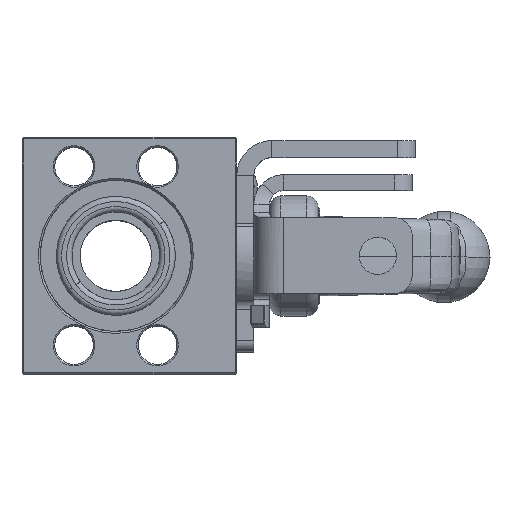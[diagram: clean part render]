
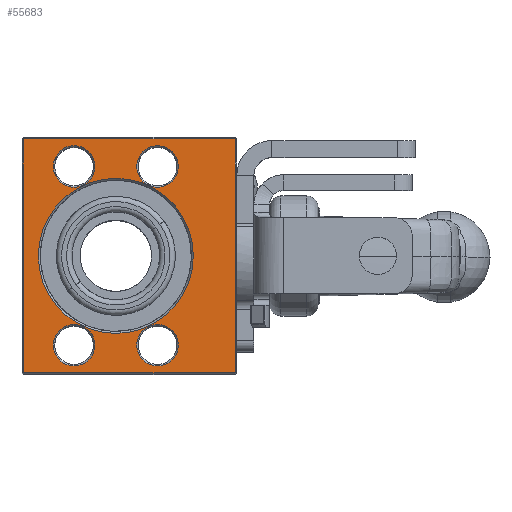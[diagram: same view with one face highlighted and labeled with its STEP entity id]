
A CAD part, top view. The second image highlights one B-rep face of the part: STEP entity #55683.
In plain terms, the highlighted planar face has unit normal (0, 0, 1).
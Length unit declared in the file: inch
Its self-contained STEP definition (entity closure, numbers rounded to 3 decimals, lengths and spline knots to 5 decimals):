
#310 = CARTESIAN_POINT ( 'NONE',  ( -1.1103, 1.17805, 2.44981 ) ) ;
#475 = ORIENTED_EDGE ( 'NONE', *, *, #34387, .T. ) ;
#910 = VERTEX_POINT ( 'NONE', #5869 ) ;
#941 = DIRECTION ( 'NONE',  ( -1., 0., 0. ) ) ;
#1143 = DIRECTION ( 'NONE',  ( 0., 0., -1. ) ) ;
#1438 = ORIENTED_EDGE ( 'NONE', *, *, #43252, .T. ) ;
#1634 = CARTESIAN_POINT ( 'NONE',  ( -1.1103, 1.17805, 2.44981 ) ) ;
#1638 = CIRCLE ( 'NONE', #36151, 0.218 ) ;
#2406 = FACE_BOUND ( 'NONE', #14590, .T. ) ;
#2479 = CARTESIAN_POINT ( 'NONE',  ( -0.4543, 2.11605, 2.44981 ) ) ;
#3250 = PLANE ( 'NONE',  #36899 ) ;
#3757 = DIRECTION ( 'NONE',  ( -1., 0., 0. ) ) ;
#4048 = ORIENTED_EDGE ( 'NONE', *, *, #18323, .T. ) ;
#4652 = CARTESIAN_POINT ( 'NONE',  ( -1.5483, 0.24005, 2.44981 ) ) ;
#4796 = VECTOR ( 'NONE', #16144, 39.37008 ) ;
#4830 = CARTESIAN_POINT ( 'NONE',  ( -2.0803, 2.40555, 2.44981 ) ) ;
#5293 = EDGE_CURVE ( 'NONE', #31490, #45296, #49247, .T. ) ;
#5869 = CARTESIAN_POINT ( 'NONE',  ( 0.1447, -0.04945, 2.44981 ) ) ;
#5875 = CARTESIAN_POINT ( 'NONE',  ( 0.1447, -0.06445, 2.44981 ) ) ;
#6166 = CARTESIAN_POINT ( 'NONE',  ( -0.6723, 0.24005, 2.44981 ) ) ;
#7796 = FACE_BOUND ( 'NONE', #8501, .T. ) ;
#8501 = EDGE_LOOP ( 'NONE', ( #39343, #14721 ) ) ;
#8793 = DIRECTION ( 'NONE',  ( 0., 0., -1. ) ) ;
#9953 = DIRECTION ( 'NONE',  ( -1., 0., 0. ) ) ;
#10684 = EDGE_LOOP ( 'NONE', ( #1438, #46745 ) ) ;
#10688 = VERTEX_POINT ( 'NONE', #37863 ) ;
#10774 = CARTESIAN_POINT ( 'NONE',  ( -2.0953, -0.04945, 2.44981 ) ) ;
#10837 = ORIENTED_EDGE ( 'NONE', *, *, #13119, .T. ) ;
#11115 = AXIS2_PLACEMENT_3D ( 'NONE', #39218, #8793, #26134 ) ;
#12341 = FACE_BOUND ( 'NONE', #53373, .T. ) ;
#12587 = CARTESIAN_POINT ( 'NONE',  ( -0.4543, 0.24005, 2.44981 ) ) ;
#13117 = ORIENTED_EDGE ( 'NONE', *, *, #5293, .T. ) ;
#13119 = EDGE_CURVE ( 'NONE', #31804, #47796, #54019, .T. ) ;
#13459 = DIRECTION ( 'NONE',  ( 0., 0., -1. ) ) ;
#14371 = LINE ( 'NONE', #35997, #30991 ) ;
#14590 = EDGE_LOOP ( 'NONE', ( #13117, #50322 ) ) ;
#14721 = ORIENTED_EDGE ( 'NONE', *, *, #33453, .T. ) ;
#15865 = EDGE_LOOP ( 'NONE', ( #35305, #4048, #56185, #24087 ) ) ;
#16144 = DIRECTION ( 'NONE',  ( 1., 0., 0. ) ) ;
#16847 = CARTESIAN_POINT ( 'NONE',  ( -0.2963, 1.17805, 2.44981 ) ) ;
#17450 = AXIS2_PLACEMENT_3D ( 'NONE', #310, #1143, #9953 ) ;
#17630 = CARTESIAN_POINT ( 'NONE',  ( -1.7663, 0.24005, 2.44981 ) ) ;
#18114 = ORIENTED_EDGE ( 'NONE', *, *, #26160, .T. ) ;
#18239 = CARTESIAN_POINT ( 'NONE',  ( -1.3303, 2.11605, 2.44981 ) ) ;
#18323 = EDGE_CURVE ( 'NONE', #37550, #910, #41754, .T. ) ;
#18616 = DIRECTION ( 'NONE',  ( 0., -1., 0. ) ) ;
#19579 = EDGE_CURVE ( 'NONE', #27376, #37550, #14371, .T. ) ;
#20057 = CARTESIAN_POINT ( 'NONE',  ( -1.5483, 0.24005, 2.44981 ) ) ;
#20916 = AXIS2_PLACEMENT_3D ( 'NONE', #45989, #36885, #32909 ) ;
#21569 = VECTOR ( 'NONE', #3757, 39.37008 ) ;
#21640 = CIRCLE ( 'NONE', #36191, 0.218 ) ;
#21676 = DIRECTION ( 'NONE',  ( 0., 0., -1. ) ) ;
#22198 = CARTESIAN_POINT ( 'NONE',  ( -1.7663, 2.11605, 2.44981 ) ) ;
#22292 = CIRCLE ( 'NONE', #23166, 0.218 ) ;
#23009 = AXIS2_PLACEMENT_3D ( 'NONE', #4652, #13459, #941 ) ;
#23166 = AXIS2_PLACEMENT_3D ( 'NONE', #6166, #23497, #40861 ) ;
#23497 = DIRECTION ( 'NONE',  ( 0., 0., -1. ) ) ;
#23710 = AXIS2_PLACEMENT_3D ( 'NONE', #1634, #24085, #32640 ) ;
#23940 = DIRECTION ( 'NONE',  ( 0., 0., -1. ) ) ;
#24085 = DIRECTION ( 'NONE',  ( 0., 0., -1. ) ) ;
#24087 = ORIENTED_EDGE ( 'NONE', *, *, #36649, .T. ) ;
#24878 = VECTOR ( 'NONE', #41622, 39.37008 ) ;
#25124 = FACE_BOUND ( 'NONE', #10684, .T. ) ;
#26134 = DIRECTION ( 'NONE',  ( -1., 0., 0. ) ) ;
#26160 = EDGE_CURVE ( 'NONE', #10688, #50211, #28202, .T. ) ;
#27376 = VERTEX_POINT ( 'NONE', #4830 ) ;
#27817 = VERTEX_POINT ( 'NONE', #22198 ) ;
#28062 = EDGE_CURVE ( 'NONE', #45296, #31490, #48248, .T. ) ;
#28202 = CIRCLE ( 'NONE', #20916, 0.218 ) ;
#28226 = CARTESIAN_POINT ( 'NONE',  ( -1.5483, 2.11605, 2.44981 ) ) ;
#28939 = EDGE_CURVE ( 'NONE', #39713, #54596, #36630, .T. ) ;
#29420 = CARTESIAN_POINT ( 'NONE',  ( -2.0953, -0.06445, 2.44981 ) ) ;
#29530 = CIRCLE ( 'NONE', #31349, 0.218 ) ;
#29971 = DIRECTION ( 'NONE',  ( 0., 0., -1. ) ) ;
#30215 = CARTESIAN_POINT ( 'NONE',  ( -2.0953, 2.40555, 2.44981 ) ) ;
#30991 = VECTOR ( 'NONE', #18616, 39.37008 ) ;
#31199 = LINE ( 'NONE', #5875, #24878 ) ;
#31349 = AXIS2_PLACEMENT_3D ( 'NONE', #20057, #37717, #34293 ) ;
#31490 = VERTEX_POINT ( 'NONE', #16847 ) ;
#31804 = VERTEX_POINT ( 'NONE', #33787 ) ;
#32640 = DIRECTION ( 'NONE',  ( -1., 0., 0. ) ) ;
#32909 = DIRECTION ( 'NONE',  ( -1., 0., 0. ) ) ;
#33453 = EDGE_CURVE ( 'NONE', #54596, #39713, #29530, .T. ) ;
#33787 = CARTESIAN_POINT ( 'NONE',  ( -0.8903, 2.11605, 2.44981 ) ) ;
#34228 = DIRECTION ( 'NONE',  ( -1., 0., 0. ) ) ;
#34293 = DIRECTION ( 'NONE',  ( -1., 0., 0. ) ) ;
#34387 = EDGE_CURVE ( 'NONE', #50211, #10688, #22292, .T. ) ;
#35043 = CARTESIAN_POINT ( 'NONE',  ( -0.6723, 2.11605, 2.44981 ) ) ;
#35305 = ORIENTED_EDGE ( 'NONE', *, *, #19579, .T. ) ;
#35997 = CARTESIAN_POINT ( 'NONE',  ( -2.0803, -0.06445, 2.44981 ) ) ;
#36151 = AXIS2_PLACEMENT_3D ( 'NONE', #55829, #21676, #34228 ) ;
#36191 = AXIS2_PLACEMENT_3D ( 'NONE', #28226, #23940, #41301 ) ;
#36630 = CIRCLE ( 'NONE', #23009, 0.218 ) ;
#36649 = EDGE_CURVE ( 'NONE', #39260, #27376, #47553, .T. ) ;
#36757 = AXIS2_PLACEMENT_3D ( 'NONE', #35043, #48112, #43846 ) ;
#36885 = DIRECTION ( 'NONE',  ( 0., 0., -1. ) ) ;
#36899 = AXIS2_PLACEMENT_3D ( 'NONE', #29420, #29971, #38500 ) ;
#37356 = EDGE_CURVE ( 'NONE', #47796, #31804, #1638, .T. ) ;
#37550 = VERTEX_POINT ( 'NONE', #48958 ) ;
#37717 = DIRECTION ( 'NONE',  ( 0., 0., -1. ) ) ;
#37863 = CARTESIAN_POINT ( 'NONE',  ( -0.8903, 0.24005, 2.44981 ) ) ;
#38500 = DIRECTION ( 'NONE',  ( -1., 0., 0. ) ) ;
#38808 = EDGE_CURVE ( 'NONE', #27817, #41749, #21640, .T. ) ;
#39092 = CARTESIAN_POINT ( 'NONE',  ( -1.3303, 0.24005, 2.44981 ) ) ;
#39218 = CARTESIAN_POINT ( 'NONE',  ( -1.5483, 2.11605, 2.44981 ) ) ;
#39260 = VERTEX_POINT ( 'NONE', #46494 ) ;
#39343 = ORIENTED_EDGE ( 'NONE', *, *, #28939, .T. ) ;
#39713 = VERTEX_POINT ( 'NONE', #39092 ) ;
#40861 = DIRECTION ( 'NONE',  ( -1., 0., 0. ) ) ;
#41301 = DIRECTION ( 'NONE',  ( -1., 0., 0. ) ) ;
#41622 = DIRECTION ( 'NONE',  ( 0., 1., 0. ) ) ;
#41749 = VERTEX_POINT ( 'NONE', #18239 ) ;
#41754 = LINE ( 'NONE', #10774, #4796 ) ;
#42483 = FACE_BOUND ( 'NONE', #54228, .T. ) ;
#43252 = EDGE_CURVE ( 'NONE', #41749, #27817, #50161, .T. ) ;
#43846 = DIRECTION ( 'NONE',  ( -1., 0., 0. ) ) ;
#44979 = CARTESIAN_POINT ( 'NONE',  ( -1.9243, 1.17805, 2.44981 ) ) ;
#45296 = VERTEX_POINT ( 'NONE', #44979 ) ;
#45989 = CARTESIAN_POINT ( 'NONE',  ( -0.6723, 0.24005, 2.44981 ) ) ;
#46474 = FACE_OUTER_BOUND ( 'NONE', #15865, .T. ) ;
#46494 = CARTESIAN_POINT ( 'NONE',  ( 0.1447, 2.40555, 2.44981 ) ) ;
#46745 = ORIENTED_EDGE ( 'NONE', *, *, #38808, .T. ) ;
#46753 = ORIENTED_EDGE ( 'NONE', *, *, #37356, .T. ) ;
#47553 = LINE ( 'NONE', #30215, #21569 ) ;
#47796 = VERTEX_POINT ( 'NONE', #2479 ) ;
#48112 = DIRECTION ( 'NONE',  ( 0., 0., -1. ) ) ;
#48248 = CIRCLE ( 'NONE', #23710, 0.814 ) ;
#48958 = CARTESIAN_POINT ( 'NONE',  ( -2.0803, -0.04945, 2.44981 ) ) ;
#49247 = CIRCLE ( 'NONE', #17450, 0.814 ) ;
#50045 = EDGE_CURVE ( 'NONE', #910, #39260, #31199, .T. ) ;
#50161 = CIRCLE ( 'NONE', #11115, 0.218 ) ;
#50211 = VERTEX_POINT ( 'NONE', #12587 ) ;
#50322 = ORIENTED_EDGE ( 'NONE', *, *, #28062, .T. ) ;
#53373 = EDGE_LOOP ( 'NONE', ( #46753, #10837 ) ) ;
#54019 = CIRCLE ( 'NONE', #36757, 0.218 ) ;
#54228 = EDGE_LOOP ( 'NONE', ( #475, #18114 ) ) ;
#54596 = VERTEX_POINT ( 'NONE', #17630 ) ;
#55683 = ADVANCED_FACE ( 'NONE', ( #2406, #7796, #12341, #25124, #42483, #46474 ), #3250, .F. ) ;
#55829 = CARTESIAN_POINT ( 'NONE',  ( -0.6723, 2.11605, 2.44981 ) ) ;
#56185 = ORIENTED_EDGE ( 'NONE', *, *, #50045, .T. ) ;
